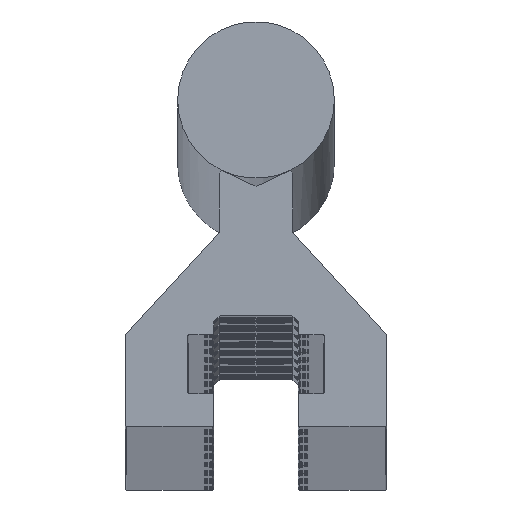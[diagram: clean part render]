
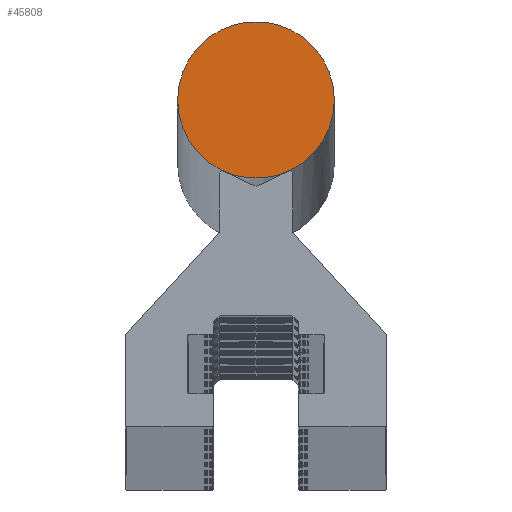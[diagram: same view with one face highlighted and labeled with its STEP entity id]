
A CAD part, top view. The second image highlights one B-rep face of the part: STEP entity #45808.
In plain terms, the highlighted planar face has unit normal (0, 0, 1).
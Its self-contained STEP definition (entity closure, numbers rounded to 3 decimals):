
#3501 = DIRECTION ( 'NONE',  ( 1., 0., 0. ) ) ;
#18019 = DIRECTION ( 'NONE',  ( 0., 0., 1. ) ) ;
#24424 = AXIS2_PLACEMENT_3D ( 'NONE', #46612, #18019, #51147 ) ;
#27791 = PLANE ( 'NONE',  #43762 ) ;
#32630 = DIRECTION ( 'NONE',  ( 0., 0., 1. ) ) ;
#43762 = AXIS2_PLACEMENT_3D ( 'NONE', #60033, #32630, #3501 ) ;
#43968 = ORIENTED_EDGE ( 'NONE', *, *, #54262, .T. ) ;
#45808 = ADVANCED_FACE ( 'NONE', ( #54137 ), #27791, .T. ) ;
#46612 = CARTESIAN_POINT ( 'NONE',  ( 0., 25., 1. ) ) ;
#46938 = EDGE_LOOP ( 'NONE', ( #43968 ) ) ;
#51147 = DIRECTION ( 'NONE',  ( 1., 0., 0. ) ) ;
#53355 = CARTESIAN_POINT ( 'NONE',  ( 6., 25., 1. ) ) ;
#54137 = FACE_OUTER_BOUND ( 'NONE', #46938, .T. ) ;
#54262 = EDGE_CURVE ( 'NONE', #54404, #54404, #54853, .T. ) ;
#54404 = VERTEX_POINT ( 'NONE', #53355 ) ;
#54853 = CIRCLE ( 'NONE', #24424, 6. ) ;
#60033 = CARTESIAN_POINT ( 'NONE',  ( 0., 25., 1. ) ) ;
